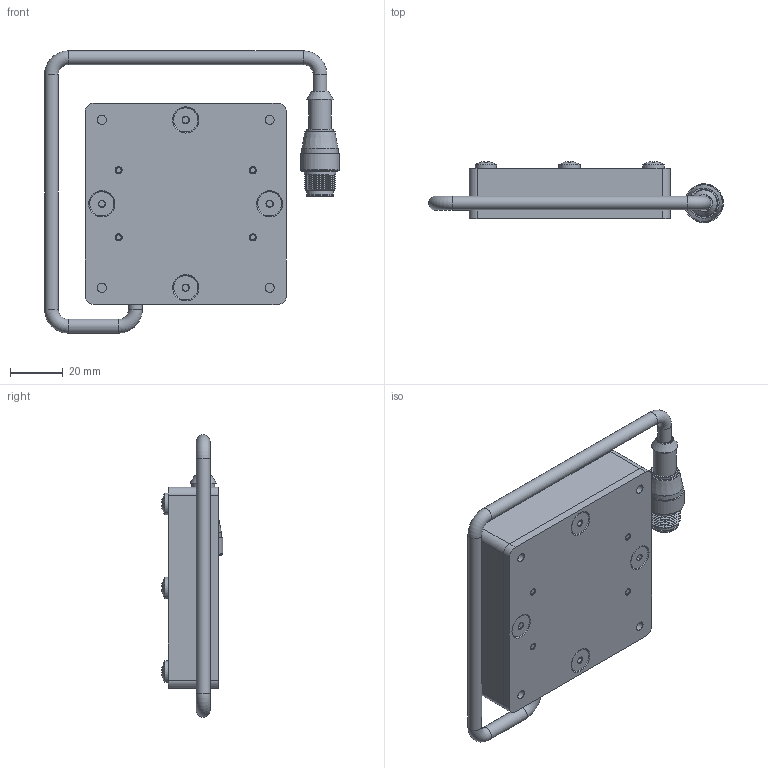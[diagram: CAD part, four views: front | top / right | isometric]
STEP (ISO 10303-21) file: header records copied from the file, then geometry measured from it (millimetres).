
FILE_DESCRIPTION (( 'STEP AP214' ), '1' );
FILE_NAME ('SBL22-XXX.STEP', '2026-04-17T16:30:34', ( '' ), ( '' ), 'SwSTEP 2.0', 'SolidWorks 2025', '' );
FILE_SCHEMA (( 'AUTOMOTIVE_DESIGN' ));
Length unit declared in the file: inch
Products named in the file (12): Hex Standoff .375 x 8-32; RS 4.4T-0.3 Connector; SC Pigtail Complete 1; 8-32 x .375 Nylon Screw_.375" 94611A192; 8-32 x .375 82deg FHCS_92210A192; SBL22-XXX; Backplate BL22; MC Pigtail; .125 Nylon Spacer; WD-SBLYYXX_2x2 with holes; 6-32 x .3125 Nylon SHCS_95868A145; Housing SBL22
Assembly tree (26 placements, depth 3):
  SBL22-XXX
    Backplate BL22
    Housing SBL22
    WD-SBLYYXX_2x2 with holes
    8-32 x .375 82deg FHCS_92210A192  x4
    Hex Standoff .375 x 8-32  x4
    8-32 x .375 Nylon Screw_.375" 94611A192  x4
    .125 Nylon Spacer  x4
    6-32 x .3125 Nylon SHCS_95868A145  x4
    SC Pigtail Complete 1
      MC Pigtail
      RS 4.4T-0.3 Connector
Bounding box: 111.55 x 23.13 x 106.81 mm (x, y, z)
Volume: 82548.2 mm3; surface area: 51955.5 mm2
Topology: 25 solids, 25 shells, 621 faces, 1425 edges, 889 vertices
Faces by surface type: plane 236, cylinder 126, cone 119, bspline 116, torus 20, sphere 4
Full cylindrical faces by diameter (mm): 0.762 x4, 2.705 x4, 3.454 x8, 3.556 x4, 4.496 x12, 5.207 x5, 5.74 x4, 6.35 x4, 6.604 x4, 6.858 x4, 8.128 x4, 8.382 x1, 8.636 x1, 9.119 x4, 10.16 x2, 10.541 x1, 11.938 x1, 13.716 x2, 14.732 x1
Entity records: 13847 total; most frequent: CARTESIAN_POINT 6346, DIRECTION 1285, ORIENTED_EDGE 1110, EDGE_CURVE 555, AXIS2_PLACEMENT_3D 539, EDGE_LOOP 466, VERTEX_POINT 407, FACE_OUTER_BOUND 358
